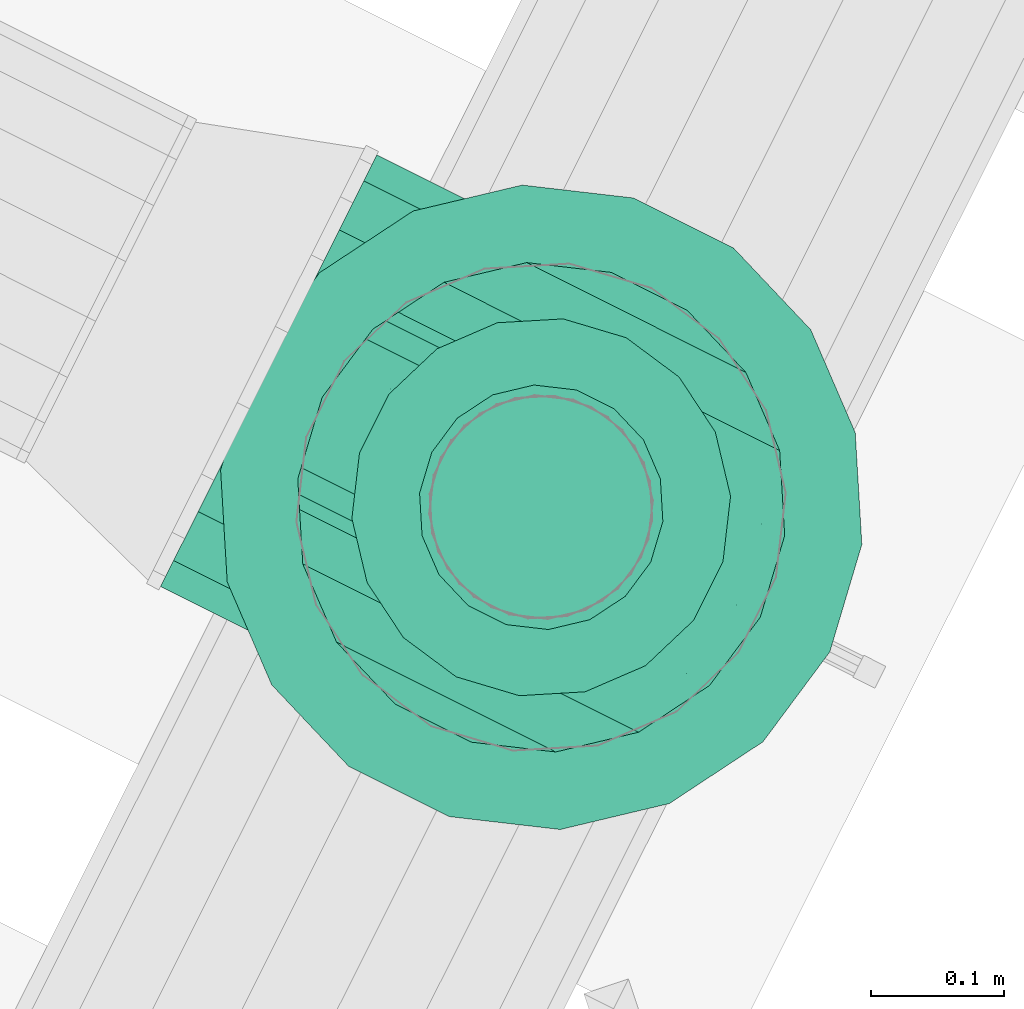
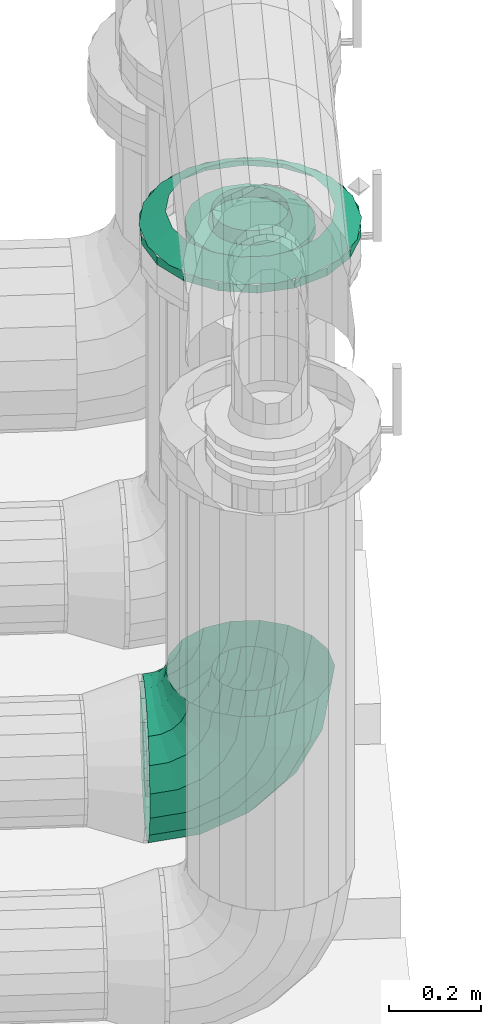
# One storey, part 23 of 152: 1 flow fitting, 1 flow segment.
"""IFC2X3 building model written with IfcOpenShell, lengths in metres."""

import ifcopenshell
import ifcopenshell.guid

model = None  # the IFC model being written
_history = None  # IfcOwnerHistory: only IFC2X3 demands one
_inside = {}  # id of a spatial element -> (the spatial element, [elements in it])
_under = {}  # id of a project, library or spatial element -> (it, [spatial elements below it])
_declared = {}  # id of a project -> (the project, [libraries it declares])
_typed = {}  # id of a type object -> (the type object, [elements of that type])
_made_of = {}  # id of a material, layer set ... -> (it, [elements and type objects made of it])


def new_model(schema):
    """Start an empty IFC model of exactly this schema.

    Asked for "IFC4X3", IfcOpenShell would pick the latest addendum, in which some entities
    have other attributes; the version numbers below select the first issue.
    IFC2X3 requires an IfcOwnerHistory on every rooted entity: one is made here for all.
    """
    global model, _history
    if schema == "IFC4X3":
        model = ifcopenshell.file(schema_version=(4, 3, 0, 0))
    else:
        model = ifcopenshell.file(schema=schema)
    _inside.clear()
    _under.clear()
    _declared.clear()
    _typed.clear()
    _made_of.clear()
    _history = None
    if model.schema == "IFC2X3":
        org = make("IfcOrganization", Name="unknown")
        user = make(
            "IfcPersonAndOrganization",
            ThePerson=make("IfcPerson", FamilyName="unknown"),
            TheOrganization=org,
        )
        app = make(
            "IfcApplication",
            ApplicationDeveloper=org,
            Version="unknown",
            ApplicationFullName="unknown",
            ApplicationIdentifier="unknown",
        )
        _history = make(
            "IfcOwnerHistory",
            OwningUser=user,
            OwningApplication=app,
            ChangeAction="ADDED",
            CreationDate=0,
        )
    return model


def make(cls, **values):
    """One entity of the class cls with the attributes given. An attribute that is None is left unset."""
    return model.create_entity(
        cls, **{name: value for name, value in values.items() if value is not None}
    )


def rooted(cls, **values):
    """An entity with a GlobalId (a new one), such as an element, a storey or a relation."""
    return make(cls, GlobalId=ifcopenshell.guid.new(), OwnerHistory=_history, **values)


def si_unit(unit_type, name, prefix=None):
    """IfcSIUnit, for example si_unit("LENGTHUNIT", "METRE", prefix="MILLI")."""
    return make("IfcSIUnit", UnitType=unit_type, Prefix=prefix, Name=name)


def derived_unit(unit_type, elements):
    """IfcDerivedUnit: a product of units, each with its exponent."""
    return make(
        "IfcDerivedUnit",
        Elements=[
            make("IfcDerivedUnitElement", Unit=unit, Exponent=power)
            for unit, power in elements
        ],
        UnitType=unit_type,
    )


def assignment(units):
    """IfcUnitAssignment: the units of a project."""
    return None if units is None else make("IfcUnitAssignment", Units=units)


def point(xyz):
    """IfcCartesianPoint."""
    return None if xyz is None else make("IfcCartesianPoint", Coordinates=xyz)


def direction(xyz):
    """IfcDirection."""
    return None if xyz is None else make("IfcDirection", DirectionRatios=xyz)


def frame(location, z_axis=None, x_axis=None):
    """IfcAxis2Placement3D, a coordinate frame: its origin and axes. An axis left out is left unset."""
    return make(
        "IfcAxis2Placement3D",
        Location=point(location),
        Axis=direction(z_axis),
        RefDirection=direction(x_axis),
    )


def origin():
    """The frame at (0, 0, 0) with its axes left unset."""
    return frame((0.0, 0.0, 0.0))


def place(relative_to, where):
    """IfcLocalPlacement: puts the frame where relative to a parent placement (None: the world)."""
    return make(
        "IfcLocalPlacement", PlacementRelTo=relative_to, RelativePlacement=where
    )


def context(
    kind, dimensions, precision=None, world=None, true_north=None, identifier=None
):
    """IfcGeometricRepresentationContext, for example the 3D "Model" context."""
    return make(
        "IfcGeometricRepresentationContext",
        ContextIdentifier=identifier,
        ContextType=kind,
        CoordinateSpaceDimension=dimensions,
        Precision=precision,
        WorldCoordinateSystem=world,
        TrueNorth=true_north,
    )


def subcontext(parent, identifier, kind, view, scale=None):
    """IfcGeometricRepresentationSubContext, for example "Body" below "Model"."""
    return make(
        "IfcGeometricRepresentationSubContext",
        ContextIdentifier=identifier,
        ContextType=kind,
        ParentContext=parent,
        TargetScale=scale,
        TargetView=view,
    )


def project(units=None, contexts=None):
    """IfcProject with its units and contexts."""
    return rooted(
        "IfcProject",
        Name="project",
        RepresentationContexts=contexts,
        UnitsInContext=assignment(units),
    )


def spatial(cls, under=None, at=None, **own):
    """A site, building, storey or space (cls), placed at a placement, below another one or the project."""
    s = rooted(cls, ObjectPlacement=at, **own)
    if under is not None:
        _under.setdefault(under.id(), (under, []))[1].append(s)
    return s


def faces_of(points, faces, orient=None, outer=None):
    """IfcFace entities. A face is a list of loops; a loop is a list of indices into points, from 0.

    orient and outer hold one flag for each loop. By default every Orientation is true, the
    first loop of a face is its IfcFaceOuterBound and the others are IfcFaceBound.
    """
    made = []
    for i, loops in enumerate(faces):
        bounds = []
        for j, loop in enumerate(loops):
            is_outer = j == 0 if outer is None else outer[i][j]
            bounds.append(
                make(
                    "IfcFaceOuterBound" if is_outer else "IfcFaceBound",
                    Bound=make("IfcPolyLoop", Polygon=[points[k] for k in loop]),
                    Orientation=True if orient is None else orient[i][j],
                )
            )
        made.append(make("IfcFace", Bounds=bounds))
    return made


def face_set(faces, orient=None, outer=None):
    """The faces of one IfcConnectedFaceSet. surface_model builds it on its shared points."""
    return ("IfcConnectedFaceSet", faces, orient, outer)


def surface_model(cls, points, shells):
    """IfcFaceBasedSurfaceModel or IfcShellBasedSurfaceModel (cls): surfaces that need not close."""
    shared = [point(p) for p in points]
    made = [make(c, CfsFaces=faces_of(shared, fs, o, b)) for c, fs, o, b in shells]
    if cls == "IfcFaceBasedSurfaceModel":
        return make(cls, FbsmFaces=made)
    return make(cls, SbsmBoundary=made)


def shape(context_of_items, identifier, shape_type, items):
    """IfcShapeRepresentation: the items that make up one representation, for example the "Body"."""
    return make(
        "IfcShapeRepresentation",
        ContextOfItems=context_of_items,
        RepresentationIdentifier=identifier,
        RepresentationType=shape_type,
        Items=items,
    )


def source(mapping_origin, context_of_items, identifier, shape_type, items):
    """IfcRepresentationMap: a shape defined once, which mapped items show again and again."""
    return make(
        "IfcRepresentationMap",
        MappingOrigin=mapping_origin,
        MappedRepresentation=shape(context_of_items, identifier, shape_type, items),
    )


def transform(
    local_origin,
    x_axis=None,
    y_axis=None,
    z_axis=None,
    scale=None,
    scale2=None,
    scale3=None,
    uniform=True,
):
    """IfcCartesianTransformationOperator3D, or its non-uniform kind. x_axis, y_axis, z_axis: its Axis1, 2, 3."""
    if uniform:
        return make(
            "IfcCartesianTransformationOperator3D",
            Axis1=direction(x_axis),
            Axis2=direction(y_axis),
            LocalOrigin=point(local_origin),
            Scale=scale,
            Axis3=direction(z_axis),
        )
    return make(
        "IfcCartesianTransformationOperator3DnonUniform",
        Axis1=direction(x_axis),
        Axis2=direction(y_axis),
        LocalOrigin=point(local_origin),
        Scale=scale,
        Axis3=direction(z_axis),
        Scale2=scale2,
        Scale3=scale3,
    )


def mapped(mapping_source, mapping_target):
    """IfcMappedItem: shows the shape of a source again, moved by a transform."""
    return make(
        "IfcMappedItem", MappingSource=mapping_source, MappingTarget=mapping_target
    )


def material(Name=None, Category=None):
    """IfcMaterial."""
    return make("IfcMaterial", Name=Name, Category=Category)


def made_of(thing, what):
    """Note that an element or type object is made of a material, layer set ...; save() writes the relation."""
    if what is not None:
        _made_of.setdefault(what.id(), (what, []))[1].append(thing)
    return thing


def type_object(cls, material=None, **own):
    """A type object (cls), such as IfcWallType, which elements share."""
    return made_of(rooted(cls, **own), material)


def type_shapes(of_type, sources):
    """Give a type object the sources (RepresentationMaps) that its elements show as mapped items."""
    of_type.RepresentationMaps = sources


def element(
    cls,
    number,
    at=None,
    inside=None,
    cuts=None,
    type_object=None,
    material=None,
    context=None,
    identifier="Body",
    shape_type=None,
    held_by="IfcProductDefinitionShape",
    body=None,
    shapes=None,
    **own,
):
    """One element of the class cls, such as IfcWall. Its Tag is "e" and its number.

    at: its placement. inside: the storey or other place that contains it. cuts: it is an
    opening in that element (IfcRelVoidsElement). A single representation is given by context,
    identifier, shape_type and body (its items); several are given by shapes. held_by: the class
    of the entity that holds the representations. save() writes the other relations.
    """
    e = rooted(cls, Tag="e%d" % number, ObjectPlacement=at, **own)
    if body is not None:
        shapes = [shape(context, identifier, shape_type, body)]
    if shapes is not None:
        e.Representation = make(held_by, Representations=shapes)
    if inside is not None:
        _inside.setdefault(inside.id(), (inside, []))[1].append(e)
    if cuts is not None:
        rooted(
            "IfcRelVoidsElement", RelatingBuildingElement=cuts, RelatedOpeningElement=e
        )
    if type_object is not None:
        _typed.setdefault(type_object.id(), (type_object, []))[1].append(e)
    return made_of(e, material)


def aggregate(whole, parts):
    """IfcRelAggregates: a whole, such as a stair, and the parts it consists of."""
    return rooted("IfcRelAggregates", RelatingObject=whole, RelatedObjects=parts)


def save(model, path):
    """Write the relations noted so far, then the file.

    IfcRelAggregates (storeys below a building ...), IfcRelContainedInSpatialStructure (elements
    in a storey), IfcRelDefinesByType, IfcRelAssociatesMaterial and IfcRelDeclares: one each for
    every whole, place, type object, material and project.
    """
    for whole, parts in _under.values():
        aggregate(whole, parts)
    for where, things in _inside.values():
        rooted(
            "IfcRelContainedInSpatialStructure",
            RelatedElements=things,
            RelatingStructure=where,
        )
    for kind, things in _typed.values():
        rooted("IfcRelDefinesByType", RelatedObjects=things, RelatingType=kind)
    for what, things in _made_of.values():
        rooted("IfcRelAssociatesMaterial", RelatedObjects=things, RelatingMaterial=what)
    for by, libraries in _declared.values():
        rooted("IfcRelDeclares", RelatingContext=by, RelatedDefinitions=libraries)
    model.write(path)


model = new_model("IFC2X3")

# Units and contexts
model_context = context("Model", 3, precision=5.2338327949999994e-05, world=origin(), true_north=direction((0.0, 1.0)))
body_context = subcontext(model_context, "Body", "Model", "MODEL_VIEW")
ifc_project = project(units=[si_unit("LENGTHUNIT", "METRE"), si_unit("AREAUNIT", "SQUARE_METRE"), si_unit("VOLUMEUNIT", "CUBIC_METRE"), si_unit("MASSUNIT", "GRAM", prefix="KILO"), si_unit("PLANEANGLEUNIT", "RADIAN"), derived_unit("THERMALTRANSMITTANCEUNIT", [(si_unit("MASSUNIT", "GRAM", prefix="KILO"), 1), (si_unit("THERMODYNAMICTEMPERATUREUNIT", "KELVIN"), -1), (si_unit("TIMEUNIT", "SECOND"), -3)])], contexts=[model_context])

# Site, building, storey
site_placement = place(None, frame((0.0, 0.0, 0.0), z_axis=(0.0, 0.0, 1.0), x_axis=(0.8939966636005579, -0.4480736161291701, 0.0)))
site = spatial("IfcSite", under=ifc_project, at=site_placement, Name="Default", CompositionType="ELEMENT")
building_placement = place(site_placement, origin())
building = spatial("IfcBuilding", under=site, at=building_placement, CompositionType="ELEMENT")
storey_placement = place(building_placement, frame((0.0, 0.0, 2.7499999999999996)))
storey = spatial("IfcBuildingStorey", under=building, at=storey_placement, Name="1. Obergeschoss", CompositionType="ELEMENT", Elevation=2.7499999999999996)

# Flow fitting
ifc_material = material(Name="IfcSurfaceStyle #9317")
distribution_element_type_1 = type_object("IfcDistributionElementType", Name="Flansch 221274:Flansch 221274", material=ifc_material)
shared_shape_1 = source(origin(), body_context, "Body", "SurfaceModel", [
    surface_model("IfcFaceBasedSurfaceModel", [(11.725814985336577, 6.734248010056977, 4.718303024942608), (11.677077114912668, 6.725654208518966, 4.718303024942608), (11.677077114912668, 6.725654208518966, 4.740303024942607), (11.725814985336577, 6.734248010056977, 4.740303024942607), (11.634217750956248, 6.700909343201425, 4.718303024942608), (11.634217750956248, 6.700909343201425, 4.740303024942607), (11.602406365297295, 6.662998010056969, 4.718303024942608), (11.602406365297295, 6.662998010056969, 4.740303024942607), (11.585479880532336, 6.616492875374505, 4.718303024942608), (11.585479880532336, 6.616492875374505, 4.740303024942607), (11.585479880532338, 6.56700314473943, 4.718303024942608), (11.585479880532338, 6.56700314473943, 4.740303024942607), (11.602406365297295, 6.520498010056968, 4.718303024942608), (11.602406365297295, 6.520498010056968, 4.740303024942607), (11.634217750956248, 6.482586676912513, 4.718303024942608), (11.634217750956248, 6.482586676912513, 4.740303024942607), (11.677077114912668, 6.45784181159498, 4.718303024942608), (11.677077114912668, 6.45784181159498, 4.740303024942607), (11.725814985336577, 6.449248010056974, 4.718303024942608), (11.725814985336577, 6.449248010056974, 4.740303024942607), (11.774552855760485, 6.457841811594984, 4.718303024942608), (11.774552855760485, 6.457841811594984, 4.740303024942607), (11.817412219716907, 6.4825866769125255, 4.718303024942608), (11.817412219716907, 6.4825866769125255, 4.740303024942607), (11.849223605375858, 6.520498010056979, 4.718303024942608), (11.849223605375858, 6.520498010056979, 4.740303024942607), (11.866150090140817, 6.567003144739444, 4.718303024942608), (11.866150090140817, 6.567003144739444, 4.740303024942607), (11.866150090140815, 6.61649287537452, 4.718303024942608), (11.866150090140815, 6.61649287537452, 4.740303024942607), (11.849223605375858, 6.662998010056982, 4.718303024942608), (11.849223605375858, 6.662998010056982, 4.740303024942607), (11.817412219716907, 6.700909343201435, 4.718303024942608), (11.817412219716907, 6.700909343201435, 4.740303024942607), (11.774552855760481, 6.725654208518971, 4.718303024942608), (11.774552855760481, 6.725654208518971, 4.740303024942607), (11.725814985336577, 6.591748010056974, 4.740303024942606), (11.633814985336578, 6.591748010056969, 4.740303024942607), (11.639363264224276, 6.560282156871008, 4.740303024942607), (11.646739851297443, 6.562967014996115, 4.773303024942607), (11.641664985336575, 6.591748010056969, 4.773303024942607), (11.655338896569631, 6.53261154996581, 4.740303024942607), (11.661352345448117, 6.537657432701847, 4.773303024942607), (11.679814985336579, 6.512073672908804, 4.740303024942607), (11.683739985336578, 6.51887197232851, 4.773303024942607), (11.709839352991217, 6.501145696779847, 4.740303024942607), (11.711202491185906, 6.508876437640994, 4.773303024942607), (11.741790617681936, 6.501145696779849, 4.740303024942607), (11.740427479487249, 6.508876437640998, 4.773303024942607), (11.77181498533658, 6.51207367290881, 4.740303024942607), (11.767889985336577, 6.5188719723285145, 4.773303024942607), (11.79629107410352, 6.532611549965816, 4.740303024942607), (11.790277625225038, 6.537657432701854, 4.773303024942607), (11.81226670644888, 6.560282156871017, 4.740303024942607), (11.80489011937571, 6.562967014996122, 4.773303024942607), (11.817814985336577, 6.591748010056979, 4.740303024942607), (11.809964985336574, 6.591748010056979, 4.773303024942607), (11.81226670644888, 6.623213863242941, 4.740303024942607), (11.804890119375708, 6.620529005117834, 4.773303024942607), (11.796291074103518, 6.65088447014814, 4.740303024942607), (11.790277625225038, 6.6458385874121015, 4.773303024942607), (11.771814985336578, 6.671422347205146, 4.740303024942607), (11.767889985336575, 6.664624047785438, 4.773303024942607), (11.741790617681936, 6.682350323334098, 4.740303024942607), (11.740427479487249, 6.674619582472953, 4.773303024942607), (11.709839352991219, 6.682350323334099, 4.740303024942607), (11.711202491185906, 6.674619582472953, 4.773303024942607), (11.679814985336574, 6.671422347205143, 4.740303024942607), (11.683739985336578, 6.664624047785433, 4.773303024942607), (11.655338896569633, 6.650884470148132, 4.740303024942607), (11.661352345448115, 6.645838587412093, 4.773303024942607), (11.639363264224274, 6.623213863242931, 4.740303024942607), (11.646739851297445, 6.620529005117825, 4.773303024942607), (11.725814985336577, 6.834248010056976, 4.718303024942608), (11.6428751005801, 6.819623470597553, 4.718303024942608), (11.6428751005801, 6.819623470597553, 4.740303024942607), (11.725814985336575, 6.834248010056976, 4.740303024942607), (11.569938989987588, 6.7775137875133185, 4.718303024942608), (11.569938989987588, 6.7775137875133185, 4.740303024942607), (11.515803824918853, 6.712998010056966, 4.718303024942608), (11.515803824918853, 6.712998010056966, 4.740303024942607), (11.486999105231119, 6.633857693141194, 4.718303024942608), (11.486999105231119, 6.633857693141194, 4.740303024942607), (11.486999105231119, 6.549638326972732, 4.718303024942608), (11.486999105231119, 6.549638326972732, 4.740303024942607), (11.515803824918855, 6.470498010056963, 4.718303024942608), (11.515803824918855, 6.470498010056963, 4.740303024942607), (11.569938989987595, 6.405982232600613, 4.718303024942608), (11.569938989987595, 6.405982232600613, 4.740303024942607), (11.6428751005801, 6.363872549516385, 4.718303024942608), (11.6428751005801, 6.363872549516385, 4.740303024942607), (11.725814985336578, 6.3492480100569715, 4.718303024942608), (11.725814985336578, 6.3492480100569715, 4.740303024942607), (11.808754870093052, 6.363872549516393, 4.718303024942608), (11.808754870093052, 6.363872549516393, 4.740303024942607), (11.881690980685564, 6.405982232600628, 4.718303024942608), (11.881690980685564, 6.405982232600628, 4.740303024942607), (11.935826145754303, 6.470498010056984, 4.718303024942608), (11.935826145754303, 6.470498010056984, 4.740303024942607), (11.964630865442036, 6.5496383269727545, 4.718303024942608), (11.964630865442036, 6.5496383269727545, 4.740303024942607), (11.964630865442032, 6.633857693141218, 4.718303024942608), (11.964630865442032, 6.633857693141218, 4.740303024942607), (11.935826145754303, 6.712998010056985, 4.718303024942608), (11.935826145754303, 6.712998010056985, 4.740303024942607), (11.881690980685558, 6.777513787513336, 4.718303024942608), (11.881690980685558, 6.777513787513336, 4.740303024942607), (11.80875487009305, 6.819623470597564, 4.718303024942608), (11.80875487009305, 6.819623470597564, 4.740303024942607), (11.483314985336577, 6.591748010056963, 4.740303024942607), (11.497939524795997, 6.5088081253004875, 4.740303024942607), (11.552770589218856, 6.528765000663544, 4.773303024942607), (11.54166498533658, 6.591748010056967, 4.773303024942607), (11.540049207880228, 6.435872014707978, 4.740303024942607), (11.58474790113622, 6.473378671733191, 4.773303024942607), (11.604564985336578, 6.381736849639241, 4.740303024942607), (11.633739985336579, 6.432269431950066, 4.773303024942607), (11.683705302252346, 6.35293212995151, 4.740303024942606), (11.69383767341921, 6.410395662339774, 4.7733030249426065), (11.767924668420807, 6.3529321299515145, 4.740303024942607), (11.757792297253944, 6.410395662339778, 4.773303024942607), (11.847064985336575, 6.381736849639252, 4.740303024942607), (11.817889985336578, 6.432269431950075, 4.773303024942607), (11.91158076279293, 6.435872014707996, 4.740303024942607), (11.866882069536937, 6.473378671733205, 4.773303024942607), (11.953690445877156, 6.508808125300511, 4.740303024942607), (11.898859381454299, 6.528765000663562, 4.773303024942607), (11.968314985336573, 6.591748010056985, 4.740303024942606), (11.909964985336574, 6.591748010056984, 4.7733030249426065), (11.953690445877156, 6.67468789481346, 4.740303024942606), (11.898859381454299, 6.654731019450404, 4.773303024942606), (11.91158076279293, 6.74762400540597, 4.740303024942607), (11.866882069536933, 6.710117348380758, 4.773303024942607), (11.847064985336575, 6.801759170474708, 4.740303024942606), (11.817889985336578, 6.751226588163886, 4.7733030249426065), (11.767924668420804, 6.830563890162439, 4.740303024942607), (11.75779229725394, 6.773100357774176, 4.773303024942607), (11.683705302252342, 6.830563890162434, 4.740303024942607), (11.693837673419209, 6.773100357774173, 4.773303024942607), (11.604564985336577, 6.801759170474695, 4.740303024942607), (11.633739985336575, 6.751226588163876, 4.773303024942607), (11.540049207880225, 6.747624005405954, 4.740303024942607), (11.584747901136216, 6.710117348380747, 4.773303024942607), (11.497939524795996, 6.674687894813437, 4.740303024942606), (11.552770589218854, 6.654731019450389, 4.7733030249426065)], [face_set([[[0, 1, 2, 3]], [[1, 4, 5, 2]], [[4, 6, 7, 5]], [[6, 8, 9, 7]], [[8, 10, 11, 9]], [[10, 12, 13, 11]], [[12, 14, 15, 13]], [[14, 16, 17, 15]], [[16, 18, 19, 17]], [[18, 20, 21, 19]], [[20, 22, 23, 21]], [[22, 24, 25, 23]], [[24, 26, 27, 25]], [[26, 28, 29, 27]], [[28, 30, 31, 29]], [[30, 32, 33, 31]], [[32, 34, 35, 33]], [[34, 0, 3, 35]], [[36, 35, 3]], [[36, 33, 35]], [[36, 31, 33]], [[36, 29, 31]], [[36, 27, 29]], [[36, 25, 27]], [[36, 23, 25]], [[36, 21, 23]], [[36, 19, 21]], [[36, 17, 19]], [[36, 15, 17]], [[36, 13, 15]], [[36, 11, 13]], [[36, 9, 11]], [[36, 7, 9]], [[36, 5, 7]], [[36, 2, 5]], [[36, 3, 2]], [[37, 38, 39, 40]], [[38, 41, 42, 39]], [[41, 43, 44, 42]], [[43, 45, 46, 44]], [[45, 47, 48, 46]], [[47, 49, 50, 48]], [[49, 51, 52, 50]], [[51, 53, 54, 52]], [[53, 55, 56, 54]], [[55, 57, 58, 56]], [[57, 59, 60, 58]], [[59, 61, 62, 60]], [[61, 63, 64, 62]], [[63, 65, 66, 64]], [[65, 67, 68, 66]], [[67, 69, 70, 68]], [[69, 71, 72, 70]], [[71, 37, 40, 72]], [[73, 74, 75, 76]], [[74, 77, 78, 75]], [[77, 79, 80, 78]], [[79, 81, 82, 80]], [[81, 83, 84, 82]], [[83, 85, 86, 84]], [[85, 87, 88, 86]], [[87, 89, 90, 88]], [[89, 91, 92, 90]], [[91, 93, 94, 92]], [[93, 95, 96, 94]], [[95, 97, 98, 96]], [[97, 99, 100, 98]], [[99, 101, 102, 100]], [[101, 103, 104, 102]], [[103, 105, 106, 104]], [[105, 107, 108, 106]], [[107, 73, 76, 108]], [[109, 110, 111, 112]], [[110, 113, 114, 111]], [[113, 115, 116, 114]], [[115, 117, 118, 116]], [[117, 119, 120, 118]], [[119, 121, 122, 120]], [[121, 123, 124, 122]], [[123, 125, 126, 124]], [[125, 127, 128, 126]], [[127, 129, 130, 128]], [[129, 131, 132, 130]], [[131, 133, 134, 132]], [[133, 135, 136, 134]], [[135, 137, 138, 136]], [[137, 139, 140, 138]], [[139, 141, 142, 140]], [[141, 143, 144, 142]], [[143, 109, 112, 144]]])]),
])
type_shapes(distribution_element_type_1, [shared_shape_1])
flow_fitting_placement = place(storey_placement, frame((0.0, 0.0, -2.7499999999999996)))
element("IfcFlowFitting", 1, at=flow_fitting_placement, inside=storey, type_object=distribution_element_type_1, material=ifc_material, Name="Flansch", ObjectType="Flansch", context=body_context, shape_type="MappedRepresentation", body=[
    mapped(shared_shape_1, transform((0.0, 0.0, 0.0), scale=1.0)),
])

# Flow segment
distribution_element_type_2 = type_object("IfcDistributionElementType", Name="Rohrbogen 221297:Rohrbogen 221297", material=ifc_material)
shared_shape_2 = source(origin(), body_context, "Body", "SurfaceModel", [
    surface_model("IfcFaceBasedSurfaceModel", [(11.809964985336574, 6.5917480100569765, 3.5541547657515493), (11.804890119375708, 6.5629670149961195, 3.5541547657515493), (11.789811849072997, 6.562967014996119, 3.4589543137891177), (11.794638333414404, 6.5917480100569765, 3.4573860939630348), (11.746053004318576, 6.5629670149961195, 3.3730727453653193), (11.75015865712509, 6.5917480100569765, 3.3700898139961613), (11.677897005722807, 6.5629670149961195, 3.3049167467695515), (11.680879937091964, 6.591748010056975, 3.300811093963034), (11.59201543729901, 6.5629670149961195, 3.2611579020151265), (11.59358365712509, 6.591748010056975, 3.2563314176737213), (11.496814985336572, 6.56296701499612, 3.246079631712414), (11.496814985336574, 6.5917480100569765, 3.2410047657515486), (11.790277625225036, 6.537657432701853, 3.5541547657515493), (11.775914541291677, 6.537657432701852, 3.46346982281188), (11.734231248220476, 6.537657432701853, 3.381661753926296), (11.669307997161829, 6.537657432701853, 3.3167385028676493), (11.587499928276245, 6.537657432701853, 3.27505520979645), (11.496814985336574, 6.537657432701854, 3.2606921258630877), (11.767889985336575, 6.518871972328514, 3.5541547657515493), (11.754622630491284, 6.518871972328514, 3.470387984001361), (11.716119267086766, 6.5188719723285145, 3.394820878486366), (11.656148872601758, 6.5188719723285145, 3.33485048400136), (11.580581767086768, 6.5188719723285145, 3.296347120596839), (11.496814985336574, 6.5188719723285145, 3.2830797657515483), (11.740427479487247, 6.508876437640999, 3.5541547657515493), (11.728504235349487, 6.508876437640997, 3.4788743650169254), (11.693901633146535, 6.508876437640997, 3.4109629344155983), (11.640006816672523, 6.508876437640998, 3.3570681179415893), (11.5720953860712, 6.508876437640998, 3.3224655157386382), (11.496814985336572, 6.508876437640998, 3.310542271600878), (11.711202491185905, 6.508876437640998, 3.5541547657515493), (11.700709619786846, 6.508876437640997, 3.4879053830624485), (11.67025812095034, 6.508876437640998, 3.4281409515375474), (11.622828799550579, 6.508876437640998, 3.3807116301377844), (11.563064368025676, 6.508876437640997, 3.3502601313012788), (11.496814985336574, 6.508876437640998, 3.33976725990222), (11.683739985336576, 6.518871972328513, 3.5541547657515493), (11.674591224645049, 6.518871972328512, 3.496391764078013), (11.648040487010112, 6.518871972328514, 3.4442830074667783), (11.606686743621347, 6.518871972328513, 3.4029292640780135), (11.554577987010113, 6.518871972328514, 3.376378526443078), (11.496814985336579, 6.518871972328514, 3.367229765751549), (11.661352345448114, 6.537657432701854, 3.5541547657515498), (11.653299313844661, 6.537657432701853, 3.503309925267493), (11.6299285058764, 6.537657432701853, 3.4574421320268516), (11.593527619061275, 6.537657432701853, 3.421041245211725), (11.54765982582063, 6.537657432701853, 3.397670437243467), (11.496814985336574, 6.537657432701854, 3.389617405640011), (11.646739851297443, 6.5629670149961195, 3.5541547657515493), (11.639402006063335, 6.562967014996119, 3.507825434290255), (11.618106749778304, 6.562967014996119, 3.4660311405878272), (11.584938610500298, 6.5629670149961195, 3.4328630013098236), (11.543144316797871, 6.5629670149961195, 3.411567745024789), (11.496814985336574, 6.56296701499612, 3.4042298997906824), (11.641664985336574, 6.5917480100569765, 3.5541547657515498), (11.634575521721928, 6.591748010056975, 3.5093936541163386), (11.614001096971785, 6.5917480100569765, 3.4690140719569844), (11.58195567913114, 6.591748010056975, 3.436968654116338), (11.541576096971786, 6.591748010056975, 3.4163942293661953), (11.496814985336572, 6.591748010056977, 3.40930476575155), (11.646739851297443, 6.62052900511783, 3.554154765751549), (11.639402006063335, 6.62052900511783, 3.5078254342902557), (11.618106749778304, 6.62052900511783, 3.4660311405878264), (11.584938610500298, 6.620529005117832, 3.4328630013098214), (11.543144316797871, 6.62052900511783, 3.4115677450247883), (11.496814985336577, 6.620529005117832, 3.404229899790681), (11.661352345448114, 6.645838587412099, 3.5541547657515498), (11.653299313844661, 6.645838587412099, 3.5033099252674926), (11.6299285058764, 6.645838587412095, 3.4574421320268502), (11.593527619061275, 6.645838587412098, 3.4210412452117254), (11.54765982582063, 6.645838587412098, 3.3976704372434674), (11.496814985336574, 6.645838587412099, 3.38961740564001), (11.683739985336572, 6.664624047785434, 3.5541547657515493), (11.674591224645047, 6.664624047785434, 3.496391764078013), (11.64804048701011, 6.664624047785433, 3.4442830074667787), (11.606686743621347, 6.664624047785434, 3.4029292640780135), (11.554577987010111, 6.664624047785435, 3.376378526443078), (11.496814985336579, 6.664624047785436, 3.367229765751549), (11.711202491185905, 6.674619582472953, 3.5541547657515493), (11.700709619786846, 6.674619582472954, 3.4879053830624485), (11.67025812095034, 6.6746195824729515, 3.4281409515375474), (11.62282879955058, 6.674619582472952, 3.3807116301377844), (11.563064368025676, 6.674619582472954, 3.3502601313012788), (11.496814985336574, 6.674619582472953, 3.33976725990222), (11.740427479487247, 6.674619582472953, 3.5541547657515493), (11.728504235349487, 6.674619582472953, 3.4788743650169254), (11.693901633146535, 6.674619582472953, 3.4109629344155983), (11.640006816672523, 6.674619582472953, 3.3570681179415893), (11.5720953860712, 6.674619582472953, 3.3224655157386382), (11.496814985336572, 6.674619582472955, 3.3105422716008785), (11.767889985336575, 6.664624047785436, 3.5541547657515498), (11.754622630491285, 6.664624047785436, 3.470387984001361), (11.716119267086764, 6.664624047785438, 3.394820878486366), (11.656148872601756, 6.664624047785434, 3.33485048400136), (11.580581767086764, 6.664624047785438, 3.296347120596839), (11.496814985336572, 6.664624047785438, 3.2830797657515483), (11.790277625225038, 6.645838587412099, 3.5541547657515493), (11.775914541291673, 6.645838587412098, 3.4634698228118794), (11.734231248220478, 6.645838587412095, 3.3816617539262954), (11.669307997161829, 6.645838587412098, 3.3167385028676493), (11.587499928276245, 6.645838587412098, 3.2750552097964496), (11.496814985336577, 6.645838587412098, 3.2606921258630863), (11.804890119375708, 6.620529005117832, 3.5541547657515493), (11.789811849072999, 6.62052900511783, 3.458954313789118), (11.746053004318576, 6.62052900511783, 3.3730727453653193), (11.677897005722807, 6.620529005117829, 3.3049167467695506), (11.59201543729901, 6.62052900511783, 3.2611579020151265), (11.496814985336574, 6.620529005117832, 3.246079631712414), (11.909964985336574, 6.5917480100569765, 3.5541547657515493), (11.898859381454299, 6.528765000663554, 3.5541547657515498), (11.879181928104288, 6.528765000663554, 3.4299162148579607), (11.889743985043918, 6.5917480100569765, 3.4264843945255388), (11.822075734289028, 6.528765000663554, 3.3178389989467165), (11.831060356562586, 6.591748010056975, 3.3113112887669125), (11.733130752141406, 6.528765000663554, 3.2288940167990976), (11.739658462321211, 6.591748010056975, 3.2199093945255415), (11.621053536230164, 6.528765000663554, 3.1717878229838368), (11.624485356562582, 6.591748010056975, 3.1612257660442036), (11.496814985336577, 6.528765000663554, 3.152110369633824), (11.496814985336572, 6.5917480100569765, 3.141004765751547), (11.866882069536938, 6.4733786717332, 3.5541547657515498), (11.848769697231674, 6.473378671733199, 3.439797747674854), (11.796205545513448, 6.473378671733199, 3.3366347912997), (11.71433495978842, 6.473378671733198, 3.2547642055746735), (11.611172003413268, 6.4733786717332, 3.2022000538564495), (11.496814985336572, 6.4733786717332, 3.1840876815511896), (11.817889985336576, 6.432269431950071, 3.5541547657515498), (11.80217545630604, 6.432269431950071, 3.454937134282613), (11.756570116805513, 6.432269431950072, 3.365431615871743), (11.685538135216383, 6.43226943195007, 3.2943996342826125), (11.59603261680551, 6.432269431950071, 3.2487942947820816), (11.496814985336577, 6.432269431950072, 3.2330797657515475), (11.757792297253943, 6.410395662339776, 3.5541547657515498), (11.74501915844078, 6.410395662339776, 3.473508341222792), (11.707950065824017, 6.410395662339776, 3.4007561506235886), (11.650213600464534, 6.410395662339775, 3.3430196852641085), (11.57746140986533, 6.410395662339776, 3.3059505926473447), (11.496814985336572, 6.410395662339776, 3.293177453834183), (11.693837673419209, 6.410395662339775, 3.5541547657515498), (11.68419469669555, 6.410395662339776, 3.493271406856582), (11.656209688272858, 6.410395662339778, 3.4383477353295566), (11.612622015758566, 6.410395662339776, 3.394760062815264), (11.557698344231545, 6.410395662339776, 3.3667750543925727), (11.496814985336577, 6.410395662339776, 3.3571320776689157), (11.633739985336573, 6.43226943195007, 3.5541547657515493), (11.627038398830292, 6.432269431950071, 3.51184261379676), (11.607589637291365, 6.432269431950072, 3.473672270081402), (11.577297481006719, 6.432269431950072, 3.4433801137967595), (11.539127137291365, 6.43226943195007, 3.4239313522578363), (11.496814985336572, 6.432269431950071, 3.4172297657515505), (11.584747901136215, 6.473378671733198, 3.5541547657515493), (11.580444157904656, 6.4733786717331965, 3.5269820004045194), (11.567954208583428, 6.473378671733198, 3.5024690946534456), (11.548500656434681, 6.473378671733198, 3.4830155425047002), (11.523987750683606, 6.473378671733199, 3.4705255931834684), (11.496814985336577, 6.4733786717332, 3.466221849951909), (11.552770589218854, 6.528765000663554, 3.5541547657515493), (11.550031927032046, 6.5287650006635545, 3.536863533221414), (11.542084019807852, 6.528765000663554, 3.5212648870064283), (11.529704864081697, 6.528765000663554, 3.5088857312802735), (11.514106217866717, 6.528765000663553, 3.50093782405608), (11.496814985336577, 6.5287650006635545, 3.498199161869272), (11.541664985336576, 6.591748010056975, 3.5541547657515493), (11.53946987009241, 6.5917480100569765, 3.5402953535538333), (11.53309939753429, 6.5917480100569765, 3.527792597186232), (11.523177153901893, 6.591748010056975, 3.5178703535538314), (11.510674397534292, 6.591748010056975, 3.5114998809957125), (11.496814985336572, 6.591748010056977, 3.509304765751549), (11.552770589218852, 6.654731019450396, 3.5541547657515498), (11.550031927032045, 6.654731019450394, 3.536863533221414), (11.542084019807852, 6.654731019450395, 3.5212648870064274), (11.529704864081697, 6.654731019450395, 3.508885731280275), (11.514106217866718, 6.654731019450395, 3.50093782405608), (11.496814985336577, 6.654731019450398, 3.498199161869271), (11.584747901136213, 6.710117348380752, 3.5541547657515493), (11.580444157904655, 6.71011734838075, 3.5269820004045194), (11.567954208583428, 6.71011734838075, 3.502469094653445), (11.548500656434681, 6.710117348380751, 3.4830155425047), (11.523987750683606, 6.710117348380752, 3.470525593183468), (11.496814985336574, 6.710117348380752, 3.4662218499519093), (11.633739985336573, 6.75122658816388, 3.5541547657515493), (11.627038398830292, 6.751226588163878, 3.5118426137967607), (11.607589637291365, 6.751226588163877, 3.473672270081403), (11.57729748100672, 6.751226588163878, 3.4433801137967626), (11.539127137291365, 6.751226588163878, 3.423931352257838), (11.496814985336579, 6.75122658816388, 3.4172297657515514), (11.69383767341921, 6.773100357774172, 3.5541547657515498), (11.684194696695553, 6.773100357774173, 3.4932714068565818), (11.65620968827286, 6.773100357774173, 3.438347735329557), (11.612622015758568, 6.773100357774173, 3.394760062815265), (11.557698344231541, 6.773100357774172, 3.366775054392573), (11.496814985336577, 6.773100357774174, 3.3571320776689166), (11.757792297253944, 6.773100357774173, 3.5541547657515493), (11.745019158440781, 6.773100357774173, 3.473508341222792), (11.707950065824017, 6.773100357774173, 3.400756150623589), (11.650213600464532, 6.773100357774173, 3.3430196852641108), (11.57746140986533, 6.773100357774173, 3.305950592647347), (11.496814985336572, 6.773100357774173, 3.293177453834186), (11.817889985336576, 6.751226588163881, 3.5541547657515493), (11.802175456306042, 6.751226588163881, 3.4549371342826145), (11.756570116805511, 6.75122658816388, 3.365431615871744), (11.685538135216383, 6.7512265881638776, 3.2943996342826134), (11.59603261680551, 6.7512265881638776, 3.248794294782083), (11.496814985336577, 6.751226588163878, 3.2330797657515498), (11.866882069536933, 6.710117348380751, 3.5541547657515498), (11.848769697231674, 6.710117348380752, 3.439797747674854), (11.796205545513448, 6.710117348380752, 3.3366347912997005), (11.71433495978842, 6.71011734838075, 3.2547642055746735), (11.611172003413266, 6.710117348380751, 3.20220005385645), (11.496814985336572, 6.710117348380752, 3.18408768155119), (11.898859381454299, 6.654731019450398, 3.5541547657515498), (11.879181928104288, 6.654731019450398, 3.42991621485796), (11.822075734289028, 6.654731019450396, 3.3178389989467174), (11.733130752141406, 6.654731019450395, 3.2288940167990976), (11.621053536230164, 6.654731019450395, 3.1717878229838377), (11.496814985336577, 6.654731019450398, 3.152110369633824)], [face_set([[[0, 1, 2, 3]], [[3, 2, 4, 5]], [[5, 4, 6, 7]], [[7, 6, 8, 9]], [[9, 8, 10, 11]], [[1, 12, 13, 2]], [[2, 13, 14, 4]], [[4, 14, 15, 6]], [[6, 15, 16, 8]], [[8, 16, 17, 10]], [[12, 18, 19, 13]], [[13, 19, 20, 14]], [[14, 20, 21, 15]], [[15, 21, 22, 16]], [[16, 22, 23, 17]], [[18, 24, 25, 19]], [[19, 25, 26, 20]], [[20, 26, 27, 21]], [[21, 27, 28, 22]], [[22, 28, 29, 23]], [[24, 30, 31, 25]], [[25, 31, 32, 26]], [[26, 32, 33, 27]], [[27, 33, 34, 28]], [[28, 34, 35, 29]], [[30, 36, 37, 31]], [[31, 37, 38, 32]], [[32, 38, 39, 33]], [[33, 39, 40, 34]], [[34, 40, 41, 35]], [[36, 42, 43, 37]], [[37, 43, 44, 38]], [[38, 44, 45, 39]], [[39, 45, 46, 40]], [[40, 46, 47, 41]], [[42, 48, 49, 43]], [[43, 49, 50, 44]], [[44, 50, 51, 45]], [[45, 51, 52, 46]], [[46, 52, 53, 47]], [[48, 54, 55, 49]], [[49, 55, 56, 50]], [[50, 56, 57, 51]], [[51, 57, 58, 52]], [[52, 58, 59, 53]], [[54, 60, 61, 55]], [[55, 61, 62, 56]], [[56, 62, 63, 57]], [[57, 63, 64, 58]], [[58, 64, 65, 59]], [[60, 66, 67, 61]], [[61, 67, 68, 62]], [[62, 68, 69, 63]], [[63, 69, 70, 64]], [[64, 70, 71, 65]], [[66, 72, 73, 67]], [[67, 73, 74, 68]], [[68, 74, 75, 69]], [[69, 75, 76, 70]], [[70, 76, 77, 71]], [[72, 78, 79, 73]], [[73, 79, 80, 74]], [[74, 80, 81, 75]], [[75, 81, 82, 76]], [[76, 82, 83, 77]], [[78, 84, 85, 79]], [[79, 85, 86, 80]], [[80, 86, 87, 81]], [[81, 87, 88, 82]], [[82, 88, 89, 83]], [[84, 90, 91, 85]], [[85, 91, 92, 86]], [[86, 92, 93, 87]], [[87, 93, 94, 88]], [[88, 94, 95, 89]], [[90, 96, 97, 91]], [[91, 97, 98, 92]], [[92, 98, 99, 93]], [[93, 99, 100, 94]], [[94, 100, 101, 95]], [[96, 102, 103, 97]], [[97, 103, 104, 98]], [[98, 104, 105, 99]], [[99, 105, 106, 100]], [[100, 106, 107, 101]], [[102, 0, 3, 103]], [[103, 3, 5, 104]], [[104, 5, 7, 105]], [[105, 7, 9, 106]], [[106, 9, 11, 107]], [[108, 109, 110, 111]], [[111, 110, 112, 113]], [[113, 112, 114, 115]], [[115, 114, 116, 117]], [[117, 116, 118, 119]], [[109, 120, 121, 110]], [[110, 121, 122, 112]], [[112, 122, 123, 114]], [[114, 123, 124, 116]], [[116, 124, 125, 118]], [[120, 126, 127, 121]], [[121, 127, 128, 122]], [[122, 128, 129, 123]], [[123, 129, 130, 124]], [[124, 130, 131, 125]], [[126, 132, 133, 127]], [[127, 133, 134, 128]], [[128, 134, 135, 129]], [[129, 135, 136, 130]], [[130, 136, 137, 131]], [[132, 138, 139, 133]], [[133, 139, 140, 134]], [[134, 140, 141, 135]], [[135, 141, 142, 136]], [[136, 142, 143, 137]], [[138, 144, 145, 139]], [[139, 145, 146, 140]], [[140, 146, 147, 141]], [[141, 147, 148, 142]], [[142, 148, 149, 143]], [[144, 150, 151, 145]], [[145, 151, 152, 146]], [[146, 152, 153, 147]], [[147, 153, 154, 148]], [[148, 154, 155, 149]], [[150, 156, 157, 151]], [[151, 157, 158, 152]], [[152, 158, 159, 153]], [[153, 159, 160, 154]], [[154, 160, 161, 155]], [[156, 162, 163, 157]], [[157, 163, 164, 158]], [[158, 164, 165, 159]], [[159, 165, 166, 160]], [[160, 166, 167, 161]], [[162, 168, 169, 163]], [[163, 169, 170, 164]], [[164, 170, 171, 165]], [[165, 171, 172, 166]], [[166, 172, 173, 167]], [[168, 174, 175, 169]], [[169, 175, 176, 170]], [[170, 176, 177, 171]], [[171, 177, 178, 172]], [[172, 178, 179, 173]], [[174, 180, 181, 175]], [[175, 181, 182, 176]], [[176, 182, 183, 177]], [[177, 183, 184, 178]], [[178, 184, 185, 179]], [[180, 186, 187, 181]], [[181, 187, 188, 182]], [[182, 188, 189, 183]], [[183, 189, 190, 184]], [[184, 190, 191, 185]], [[186, 192, 193, 187]], [[187, 193, 194, 188]], [[188, 194, 195, 189]], [[189, 195, 196, 190]], [[190, 196, 197, 191]], [[192, 198, 199, 193]], [[193, 199, 200, 194]], [[194, 200, 201, 195]], [[195, 201, 202, 196]], [[196, 202, 203, 197]], [[198, 204, 205, 199]], [[199, 205, 206, 200]], [[200, 206, 207, 201]], [[201, 207, 208, 202]], [[202, 208, 209, 203]], [[204, 210, 211, 205]], [[205, 211, 212, 206]], [[206, 212, 213, 207]], [[207, 213, 214, 208]], [[208, 214, 215, 209]], [[210, 108, 111, 211]], [[211, 111, 113, 212]], [[212, 113, 115, 213]], [[213, 115, 117, 214]], [[214, 117, 119, 215]]])]),
])
type_shapes(distribution_element_type_2, [shared_shape_2])
flow_segment_placement = place(storey_placement, frame((0.0, 0.0, -2.7499999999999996)))
element("IfcFlowSegment", 2, at=flow_segment_placement, inside=storey, type_object=distribution_element_type_2, material=ifc_material, Name="Rohrbogen", ObjectType="Rohrbogen", context=body_context, shape_type="MappedRepresentation", body=[
    mapped(shared_shape_2, transform((0.0, 0.0, 0.0), scale=1.0)),
])

save(model, "model.ifc")
